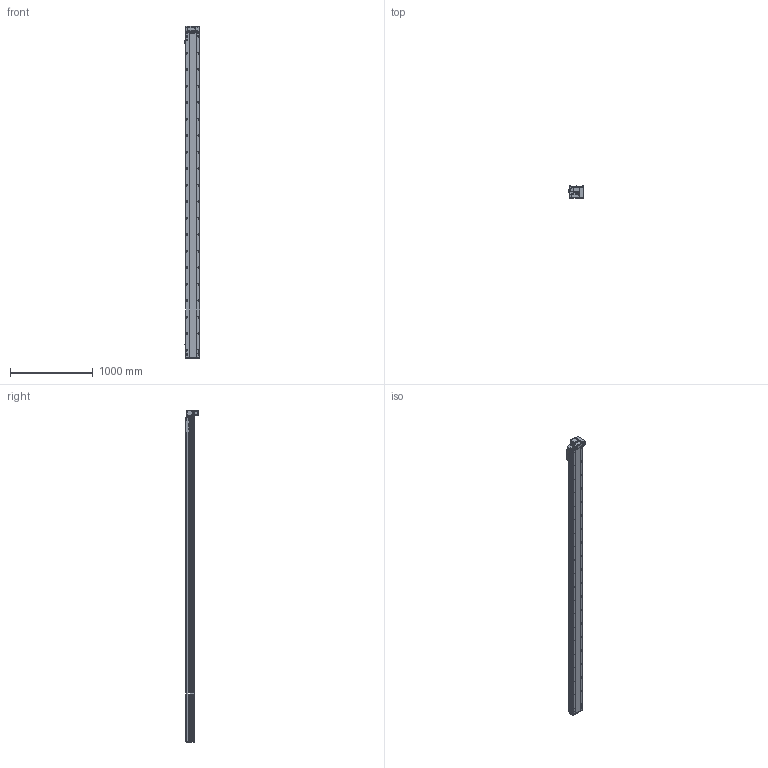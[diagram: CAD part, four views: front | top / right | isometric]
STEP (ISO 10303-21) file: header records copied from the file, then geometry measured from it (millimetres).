
FILE_DESCRIPTION (( 'STEP AP214' ), '1' );
FILE_NAME ('RTB17S-XX-3650-RM-M40-C4.STEP', '2025-12-11T08:40:27', ( '' ), ( '' ), 'SwSTEP 2.0', 'SolidWorks 2018', '' );
FILE_SCHEMA (( 'AUTOMOTIVE_DESIGN' ));
Length unit declared in the file: millimetre
Products named in the file (14): RTB17S-RM-々湍釱蚾饜-400W^RTB17S-XX-XX-RM-M40-C4; RTB17S-L-014-T20--々湍釱^RTB17S-RM-々湍釱蚾饜-400W_RTB17S-XX-XX-RM-M40-C4; RTH13-BL-012覜茼え俋离^RTB17S-XX-XX-RM-M40-C4; RTB14-L-005P--轴承塑胶压盖^RTB17S-RM-皮带座装配-400W_RTB17S-XX-XX-RM-M40-C4; RTB14-L-008-M20--萇儂啣^RTB17S-RM-々湍釱蚾饜-400W_RTB17S-XX-XX-RM-M40-C4; 400W侜督萇儂^RTB17S-XX-XX-RM-M40-C4; RTB17-R-011菁釱^RTB17S-XX-XX-RM-M40-C4; RTB17S-L-007奻裔^RTB17S-XX-XX-RM-M40-C4; RTB14-L-018P^RTB17S-RM-々湍釱蚾饜-400W_RTB17S-XX-XX-RM-M40-C4; RTB17S-L-004佪裝蹟譫蟀諉釱^RTB17S-XX-XX-RM-M40-C4; RTB14-L-017P^RTB17S-RM-々湍釱蚾饜-400W_RTB17S-XX-XX-RM-M40-C4; OMRON EE-SX672 传感器^RTB17S-XX-XX-RM-M40-C4; RTB17S-XX-3650-RM-M40-C4; RTB17S-L-001耜醱啣^RTB17S-XX-XX-RM-M40-C4
Assembly tree (16 placements, depth 3):
  RTB17S-XX-3650-RM-M40-C4
    RTB17-R-011菁釱^RTB17S-XX-XX-RM-M40-C4
    RTB17S-L-007奻裔^RTB17S-XX-XX-RM-M40-C4
    OMRON EE-SX672 传感器^RTB17S-XX-XX-RM-M40-C4  x3
    RTB17S-L-001耜醱啣^RTB17S-XX-XX-RM-M40-C4
    400W侜督萇儂^RTB17S-XX-XX-RM-M40-C4
    RTB17S-L-004佪裝蹟譫蟀諉釱^RTB17S-XX-XX-RM-M40-C4
    RTH13-BL-012覜茼え俋离^RTB17S-XX-XX-RM-M40-C4
    RTB17S-RM-々湍釱蚾饜-400W^RTB17S-XX-XX-RM-M40-C4
      RTB17S-L-014-T20--々湍釱^RTB17S-RM-々湍釱蚾饜-400W_RTB17S-XX-XX-RM-M40-C4
      RTB14-L-005P--轴承塑胶压盖^RTB17S-RM-皮带座装配-400W_RTB17S-XX-XX-RM-M40-C4
      RTB14-L-008-M20--萇儂啣^RTB17S-RM-々湍釱蚾饜-400W_RTB17S-XX-XX-RM-M40-C4
      RTB14-L-017P^RTB17S-RM-々湍釱蚾饜-400W_RTB17S-XX-XX-RM-M40-C4  x2
      RTB14-L-018P^RTB17S-RM-々湍釱蚾饜-400W_RTB17S-XX-XX-RM-M40-C4
Bounding box: 183.5 x 156.5 x 4022.5 mm (x, y, z)
Volume: 33979620.4 mm3; surface area: 3856485.6 mm2
Topology: 15 solids, 15 shells, 2429 faces, 6843 edges, 4473 vertices
Faces by surface type: plane 1096, cylinder 885, bspline 301, cone 139, torus 8
Entity records: 73385 total; most frequent: CARTESIAN_POINT 21048, ORIENTED_EDGE 10530, DIRECTION 9656, EDGE_CURVE 5265, VERTEX_POINT 3461, AXIS2_PLACEMENT_3D 3391, VECTOR 2874, LINE 2874
